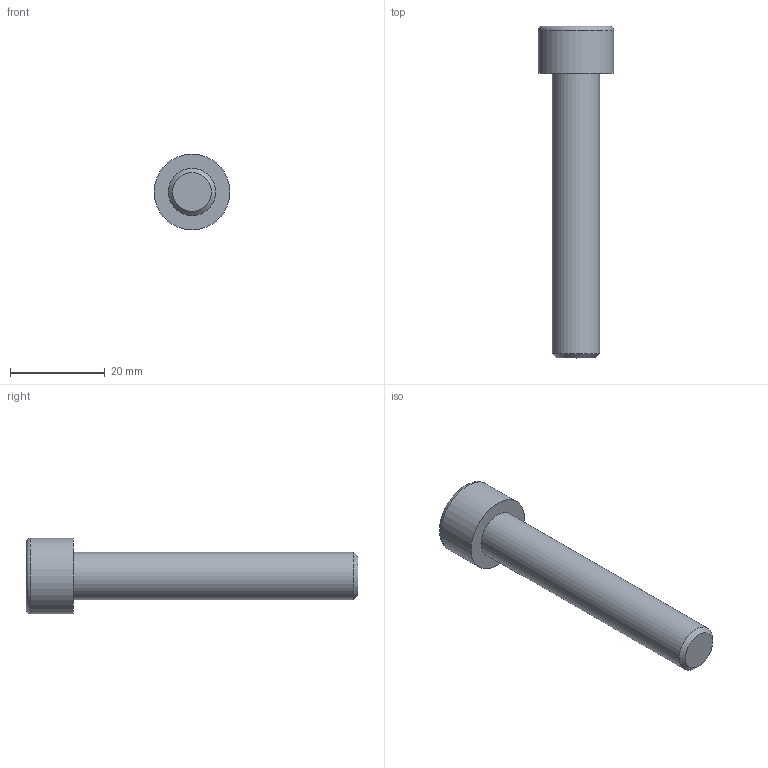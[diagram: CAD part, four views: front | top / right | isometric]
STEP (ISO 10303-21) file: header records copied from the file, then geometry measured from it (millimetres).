
FILE_DESCRIPTION(/* description */ (''),/* implementation_level */ '2;1');
FILE_NAME(/* name */ 'C:\Users\D\Documents\Inventor\各種小物\JIS\JIS B 1176 六角穴付きボルト\M10x60.stp',/* time_stamp */ '2022-05-09T18:52:08+09:00',/* author */ ('D'),/* organization */ (''),/* preprocessor_version */ 'ST-DEVELOPER v18',/* originating_system */ 'Autodesk Inventor 2020',/* authorisation */ '');
FILE_SCHEMA (('AUTOMOTIVE_DESIGN { 1 0 10303 214 3 1 1 }'));
Length unit declared in the file: millimetre
Products named in the file (1): M1.6x2.5
Bounding box: 16 x 70 x 16 mm (x, y, z)
Volume: 6365 mm3; surface area: 2903.3 mm2
Topology: 1 solids, 1 shells, 14 faces, 33 edges, 22 vertices
Faces by surface type: plane 9, cone 2, cylinder 2, torus 1
Full cylindrical faces by diameter (mm): 10 x1, 16 x1
Entity records: 435 total; most frequent: CARTESIAN_POINT 83, ORIENTED_EDGE 64, DIRECTION 64, EDGE_CURVE 32, AXIS2_PLACEMENT_3D 24, VERTEX_POINT 22, EDGE_LOOP 16, LINE 16
